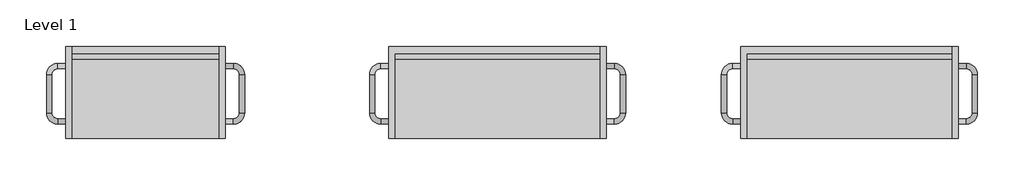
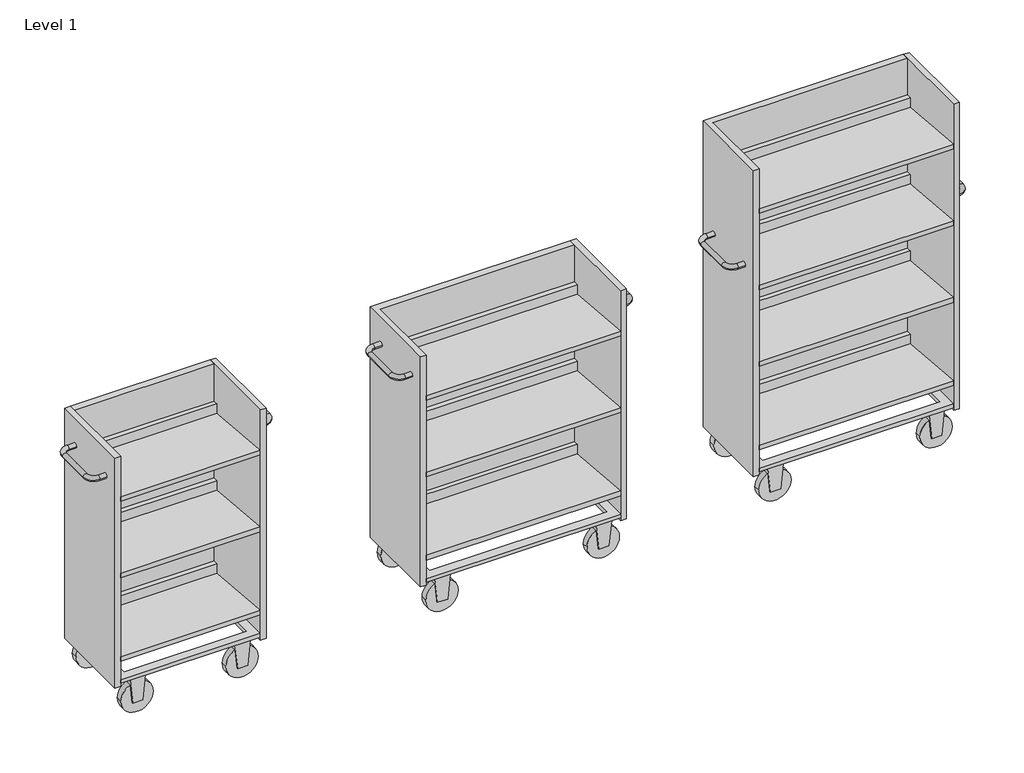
# One storey: 3 furniture elements.
"""IFC4 building model written with IfcOpenShell, lengths in millimetres."""

from ifc_helpers import new_model, si_unit, origin, place, context, project, spatial, transform, mapped, element, save
from components import furniture_902c3f7c, furniture_5349deb8, furniture_fa00082e

model = new_model("IFC4")

# Units and contexts
model_context = context("Model", 3, world=origin())
ifc_project = project(units=[si_unit("LENGTHUNIT", "METRE", prefix="MILLI")], contexts=[model_context])

# Site, building, storey
site = spatial("IfcSite", under=ifc_project)
building = spatial("IfcBuilding", under=site)
storey = spatial("IfcBuildingStorey", under=building, Name="Level 1", Elevation=0.0)

# Furniture
placement = place(None, origin())
furniture_shape = furniture_902c3f7c(model_context)
element("IfcFurniture", 1, ObjectType="BK Library - Exlibris - Book Trolley Small : BK Library - Exlibris - Book Trolley Small", at=placement, inside=storey, context=model_context, shape_type="MappedRepresentation", body=[
    mapped(furniture_shape, transform((-3289.7402553, 2197.9079229, -348.6569781), x_axis=(1.0, 0.0, 0.0), y_axis=(0.0, 1.0, 0.0), z_axis=(0.0, 0.0, 1.0))),
])
furniture_2_shape = furniture_5349deb8(model_context)
element("IfcFurniture", 2, ObjectType="BK Library - Exlibris - Book Trolley Medium : BK Library - Exlibris - Book Trolley Medium", at=placement, inside=storey, context=model_context, shape_type="MappedRepresentation", body=[
    mapped(furniture_2_shape, transform((-1989.7402553, 2197.9079229, -348.6569781), x_axis=(1.0, 0.0, 0.0), y_axis=(0.0, 1.0, 0.0), z_axis=(0.0, 0.0, 1.0))),
])
furniture_3_shape = furniture_fa00082e(model_context)
element("IfcFurniture", 3, ObjectType="BK Library - Exlibris - Book Trolley Large : BK Library - Exlibris - Book Trolley Large", at=placement, inside=storey, context=model_context, shape_type="MappedRepresentation", body=[
    mapped(furniture_3_shape, transform((-689.7402553, 2197.9079229, -348.6569781), x_axis=(1.0, 0.0, 0.0), y_axis=(0.0, 1.0, 0.0), z_axis=(0.0, 0.0, 1.0))),
])

save(model, "model.ifc")
